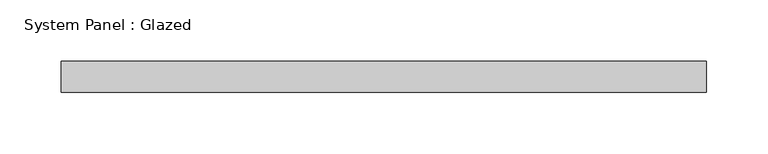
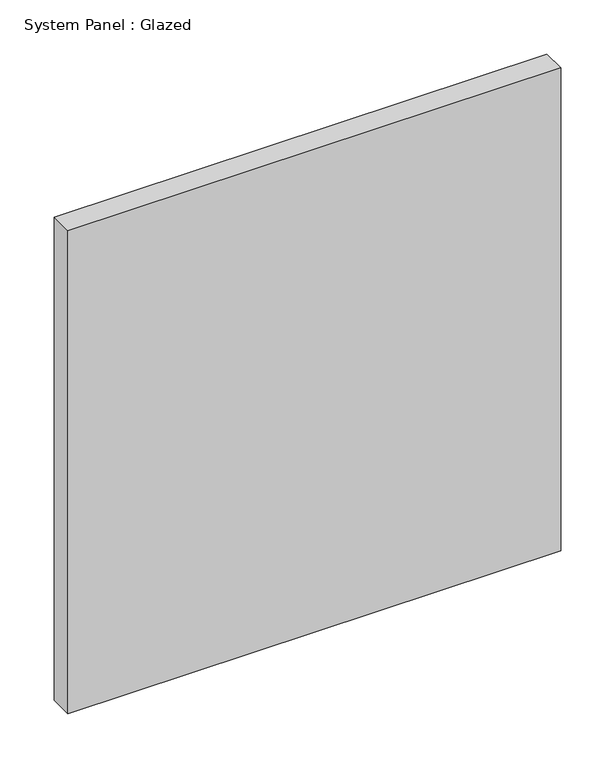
"""IFC4 building model written with IfcOpenShell, lengths in millimetres: plate geometry, System Panel : Glazed."""

import ifcopenshell
import ifcopenshell.guid

model = None  # the IFC model being written
_history = None  # IfcOwnerHistory: only IFC2X3 demands one
_inside = {}  # id of a spatial element -> (the spatial element, [elements in it])
_under = {}  # id of a project, library or spatial element -> (it, [spatial elements below it])
_declared = {}  # id of a project -> (the project, [libraries it declares])
_typed = {}  # id of a type object -> (the type object, [elements of that type])
_made_of = {}  # id of a material, layer set ... -> (it, [elements and type objects made of it])


def new_model(schema):
    """Start an empty IFC model of exactly this schema.

    Asked for "IFC4X3", IfcOpenShell would pick the latest addendum, in which some entities
    have other attributes; the version numbers below select the first issue.
    IFC2X3 requires an IfcOwnerHistory on every rooted entity: one is made here for all.
    """
    global model, _history
    if schema == "IFC4X3":
        model = ifcopenshell.file(schema_version=(4, 3, 0, 0))
    else:
        model = ifcopenshell.file(schema=schema)
    _inside.clear()
    _under.clear()
    _declared.clear()
    _typed.clear()
    _made_of.clear()
    _history = None
    if model.schema == "IFC2X3":
        org = make("IfcOrganization", Name="unknown")
        user = make(
            "IfcPersonAndOrganization",
            ThePerson=make("IfcPerson", FamilyName="unknown"),
            TheOrganization=org,
        )
        app = make(
            "IfcApplication",
            ApplicationDeveloper=org,
            Version="unknown",
            ApplicationFullName="unknown",
            ApplicationIdentifier="unknown",
        )
        _history = make(
            "IfcOwnerHistory",
            OwningUser=user,
            OwningApplication=app,
            ChangeAction="ADDED",
            CreationDate=0,
        )
    return model


def make(cls, **values):
    """One entity of the class cls with the attributes given. An attribute that is None is left unset."""
    return model.create_entity(
        cls, **{name: value for name, value in values.items() if value is not None}
    )


def rooted(cls, **values):
    """An entity with a GlobalId (a new one), such as an element, a storey or a relation."""
    return make(cls, GlobalId=ifcopenshell.guid.new(), OwnerHistory=_history, **values)


def si_unit(unit_type, name, prefix=None):
    """IfcSIUnit, for example si_unit("LENGTHUNIT", "METRE", prefix="MILLI")."""
    return make("IfcSIUnit", UnitType=unit_type, Prefix=prefix, Name=name)


def assignment(units):
    """IfcUnitAssignment: the units of a project."""
    return None if units is None else make("IfcUnitAssignment", Units=units)


def point(xyz):
    """IfcCartesianPoint."""
    return None if xyz is None else make("IfcCartesianPoint", Coordinates=xyz)


def direction(xyz):
    """IfcDirection."""
    return None if xyz is None else make("IfcDirection", DirectionRatios=xyz)


def frame(location, z_axis=None, x_axis=None):
    """IfcAxis2Placement3D, a coordinate frame: its origin and axes. An axis left out is left unset."""
    return make(
        "IfcAxis2Placement3D",
        Location=point(location),
        Axis=direction(z_axis),
        RefDirection=direction(x_axis),
    )


def origin():
    """The frame at (0, 0, 0) with its axes left unset."""
    return frame((0.0, 0.0, 0.0))


def origin_with_axes():
    """The frame at (0, 0, 0) with the z axis (0, 0, 1) and the x axis (1, 0, 0) written out."""
    return frame((0.0, 0.0, 0.0), z_axis=(0.0, 0.0, 1.0), x_axis=(1.0, 0.0, 0.0))


def place(relative_to, where):
    """IfcLocalPlacement: puts the frame where relative to a parent placement (None: the world)."""
    return make(
        "IfcLocalPlacement", PlacementRelTo=relative_to, RelativePlacement=where
    )


def context(
    kind, dimensions, precision=None, world=None, true_north=None, identifier=None
):
    """IfcGeometricRepresentationContext, for example the 3D "Model" context."""
    return make(
        "IfcGeometricRepresentationContext",
        ContextIdentifier=identifier,
        ContextType=kind,
        CoordinateSpaceDimension=dimensions,
        Precision=precision,
        WorldCoordinateSystem=world,
        TrueNorth=true_north,
    )


def project(units=None, contexts=None):
    """IfcProject with its units and contexts."""
    return rooted(
        "IfcProject",
        Name="project",
        RepresentationContexts=contexts,
        UnitsInContext=assignment(units),
    )


def spatial(cls, under=None, at=None, **own):
    """A site, building, storey or space (cls), placed at a placement, below another one or the project."""
    s = rooted(cls, ObjectPlacement=at, **own)
    if under is not None:
        _under.setdefault(under.id(), (under, []))[1].append(s)
    return s


def polyline(points):
    """IfcPolyline through the points."""
    return make("IfcPolyline", Points=[point(p) for p in points])


def outline(outer, holes=None, kind="AREA"):
    """IfcArbitraryClosedProfileDef: a profile drawn as a closed curve; with holes, ...WithVoids."""
    if holes is None:
        return make("IfcArbitraryClosedProfileDef", ProfileType=kind, OuterCurve=outer)
    return make(
        "IfcArbitraryProfileDefWithVoids",
        ProfileType=kind,
        OuterCurve=outer,
        InnerCurves=holes,
    )


def extrude(swept, where, along, depth):
    """IfcExtrudedAreaSolid: the profile swept, set in the frame where, extruded along a direction by depth."""
    return make(
        "IfcExtrudedAreaSolid",
        SweptArea=swept,
        Position=where,
        ExtrudedDirection=direction(along),
        Depth=depth,
    )


def shape(context_of_items, identifier, shape_type, items):
    """IfcShapeRepresentation: the items that make up one representation, for example the "Body"."""
    return make(
        "IfcShapeRepresentation",
        ContextOfItems=context_of_items,
        RepresentationIdentifier=identifier,
        RepresentationType=shape_type,
        Items=items,
    )


def source(mapping_origin, context_of_items, identifier, shape_type, items):
    """IfcRepresentationMap: a shape defined once, which mapped items show again and again."""
    return make(
        "IfcRepresentationMap",
        MappingOrigin=mapping_origin,
        MappedRepresentation=shape(context_of_items, identifier, shape_type, items),
    )


def transform(
    local_origin,
    x_axis=None,
    y_axis=None,
    z_axis=None,
    scale=None,
    scale2=None,
    scale3=None,
    uniform=True,
):
    """IfcCartesianTransformationOperator3D, or its non-uniform kind. x_axis, y_axis, z_axis: its Axis1, 2, 3."""
    if uniform:
        return make(
            "IfcCartesianTransformationOperator3D",
            Axis1=direction(x_axis),
            Axis2=direction(y_axis),
            LocalOrigin=point(local_origin),
            Scale=scale,
            Axis3=direction(z_axis),
        )
    return make(
        "IfcCartesianTransformationOperator3DnonUniform",
        Axis1=direction(x_axis),
        Axis2=direction(y_axis),
        LocalOrigin=point(local_origin),
        Scale=scale,
        Axis3=direction(z_axis),
        Scale2=scale2,
        Scale3=scale3,
    )


def mapped(mapping_source, mapping_target):
    """IfcMappedItem: shows the shape of a source again, moved by a transform."""
    return make(
        "IfcMappedItem", MappingSource=mapping_source, MappingTarget=mapping_target
    )


def made_of(thing, what):
    """Note that an element or type object is made of a material, layer set ...; save() writes the relation."""
    if what is not None:
        _made_of.setdefault(what.id(), (what, []))[1].append(thing)
    return thing


def element(
    cls,
    number,
    at=None,
    inside=None,
    cuts=None,
    type_object=None,
    material=None,
    context=None,
    identifier="Body",
    shape_type=None,
    held_by="IfcProductDefinitionShape",
    body=None,
    shapes=None,
    **own,
):
    """One element of the class cls, such as IfcWall. Its Tag is "e" and its number.

    at: its placement. inside: the storey or other place that contains it. cuts: it is an
    opening in that element (IfcRelVoidsElement). A single representation is given by context,
    identifier, shape_type and body (its items); several are given by shapes. held_by: the class
    of the entity that holds the representations. save() writes the other relations.
    """
    e = rooted(cls, Tag="e%d" % number, ObjectPlacement=at, **own)
    if body is not None:
        shapes = [shape(context, identifier, shape_type, body)]
    if shapes is not None:
        e.Representation = make(held_by, Representations=shapes)
    if inside is not None:
        _inside.setdefault(inside.id(), (inside, []))[1].append(e)
    if cuts is not None:
        rooted(
            "IfcRelVoidsElement", RelatingBuildingElement=cuts, RelatedOpeningElement=e
        )
    if type_object is not None:
        _typed.setdefault(type_object.id(), (type_object, []))[1].append(e)
    return made_of(e, material)


def aggregate(whole, parts):
    """IfcRelAggregates: a whole, such as a stair, and the parts it consists of."""
    return rooted("IfcRelAggregates", RelatingObject=whole, RelatedObjects=parts)


def save(model, path):
    """Write the relations noted so far, then the file.

    IfcRelAggregates (storeys below a building ...), IfcRelContainedInSpatialStructure (elements
    in a storey), IfcRelDefinesByType, IfcRelAssociatesMaterial and IfcRelDeclares: one each for
    every whole, place, type object, material and project.
    """
    for whole, parts in _under.values():
        aggregate(whole, parts)
    for where, things in _inside.values():
        rooted(
            "IfcRelContainedInSpatialStructure",
            RelatedElements=things,
            RelatingStructure=where,
        )
    for kind, things in _typed.values():
        rooted("IfcRelDefinesByType", RelatedObjects=things, RelatingType=kind)
    for what, things in _made_of.values():
        rooted("IfcRelAssociatesMaterial", RelatedObjects=things, RelatingMaterial=what)
    for by, libraries in _declared.values():
        rooted("IfcRelDeclares", RelatingContext=by, RelatedDefinitions=libraries)
    model.write(path)


def system_panel_glazed_afefc162(model_context):
    return source(origin(), model_context, "Body", "SweptSolid", [
        extrude(outline(polyline([(263.525, -44.45), (-263.525, -44.45), (-263.525, -19.05), (263.525, -19.05), (263.525, -44.45)])), origin_with_axes(), (0.0, 0.0, 1.0), 546.1),
    ])


if __name__ == "__main__":
    model = new_model("IFC4")
    model_context = context("Model", 3, world=origin())
    ifc_project = project(units=[si_unit("LENGTHUNIT", "METRE", prefix="MILLI")], contexts=[model_context])
    site = spatial("IfcSite", under=ifc_project)
    building = spatial("IfcBuilding", under=site)
    placement = place(None, origin())
    system_panel_glazed_shape = system_panel_glazed_afefc162(model_context)
    element("IfcPlate", 1, ObjectType="System Panel : Glazed", at=placement, inside=building, context=model_context, shape_type="MappedRepresentation", body=[
        mapped(system_panel_glazed_shape, transform((0.0, 0.0, 0.0), x_axis=(1.0, 0.0, 0.0), y_axis=(0.0, 1.0, 0.0), z_axis=(0.0, 0.0, 1.0))),
    ])
    save(model, "model.ifc")
